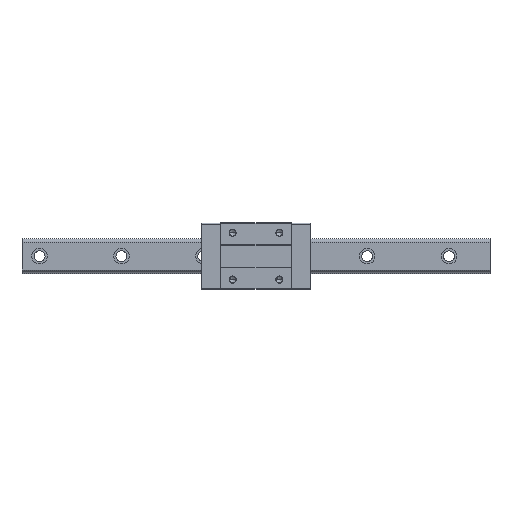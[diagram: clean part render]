
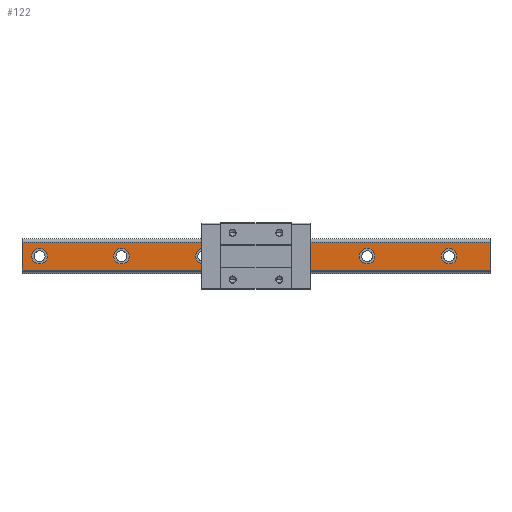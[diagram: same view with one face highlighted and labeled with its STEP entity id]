
A CAD part, top view. The second image highlights one B-rep face of the part: STEP entity #122.
In plain terms, the highlighted planar face has unit normal (0, 0, 1).
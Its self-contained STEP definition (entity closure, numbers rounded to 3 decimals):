
#13 = CIRCLE ( 'NONE', #3340, 10. ) ;
#90 = EDGE_CURVE ( 'NONE', #5143, #1685, #3420, .T. ) ;
#122 = ADVANCED_FACE ( 'NONE', ( #4680, #807, #3845, #5592, #4733, #864, #4303 ), #2019, .F. ) ;
#139 = CARTESIAN_POINT ( 'NONE',  ( 132.5, 0., 32. ) ) ;
#208 = CARTESIAN_POINT ( 'NONE',  ( -300., 17.696, 32. ) ) ;
#210 = EDGE_CURVE ( 'NONE', #4102, #4504, #13, .T. ) ;
#269 = CARTESIAN_POINT ( 'NONE',  ( 300., 17.696, 32. ) ) ;
#286 = ORIENTED_EDGE ( 'NONE', *, *, #5181, .F. ) ;
#309 = CIRCLE ( 'NONE', #866, 10. ) ;
#329 = DIRECTION ( 'NONE',  ( 1., 0., 0. ) ) ;
#341 = VERTEX_POINT ( 'NONE', #3609 ) ;
#364 = VERTEX_POINT ( 'NONE', #2353 ) ;
#417 = ORIENTED_EDGE ( 'NONE', *, *, #4057, .F. ) ;
#494 = ORIENTED_EDGE ( 'NONE', *, *, #4178, .F. ) ;
#545 = DIRECTION ( 'NONE',  ( 1., 0., 0. ) ) ;
#546 = EDGE_CURVE ( 'NONE', #1685, #2469, #2183, .T. ) ;
#549 = DIRECTION ( 'NONE',  ( 0., 0., 1. ) ) ;
#575 = CARTESIAN_POINT ( 'NONE',  ( 300., -17.696, 32. ) ) ;
#627 = DIRECTION ( 'NONE',  ( 0., 0., 1. ) ) ;
#633 = VERTEX_POINT ( 'NONE', #139 ) ;
#650 = CARTESIAN_POINT ( 'NONE',  ( -287.5, 0., 32. ) ) ;
#684 = AXIS2_PLACEMENT_3D ( 'NONE', #978, #4423, #545 ) ;
#696 = CARTESIAN_POINT ( 'NONE',  ( -267.5, 0., 32. ) ) ;
#804 = EDGE_LOOP ( 'NONE', ( #2076, #4796 ) ) ;
#807 = FACE_BOUND ( 'NONE', #3362, .T. ) ;
#840 = EDGE_CURVE ( 'NONE', #341, #3920, #4633, .T. ) ;
#864 = FACE_BOUND ( 'NONE', #5172, .T. ) ;
#866 = AXIS2_PLACEMENT_3D ( 'NONE', #1101, #2824, #3262 ) ;
#889 = DIRECTION ( 'NONE',  ( -1., 0., 0. ) ) ;
#945 = CARTESIAN_POINT ( 'NONE',  ( 300., 17.696, 32. ) ) ;
#958 = DIRECTION ( 'NONE',  ( 0., 0., 1. ) ) ;
#975 = CARTESIAN_POINT ( 'NONE',  ( 300., -17.696, 32. ) ) ;
#978 = CARTESIAN_POINT ( 'NONE',  ( 247.5, 0., 32. ) ) ;
#987 = CIRCLE ( 'NONE', #4229, 10. ) ;
#1030 = ORIENTED_EDGE ( 'NONE', *, *, #1365, .F. ) ;
#1056 = DIRECTION ( 'NONE',  ( 1., 0., 0. ) ) ;
#1075 = CARTESIAN_POINT ( 'NONE',  ( -162.5, 0., 32. ) ) ;
#1101 = CARTESIAN_POINT ( 'NONE',  ( -67.5, 0., 32. ) ) ;
#1114 = LINE ( 'NONE', #2867, #3214 ) ;
#1179 = CARTESIAN_POINT ( 'NONE',  ( 247.5, 0., 32. ) ) ;
#1193 = VECTOR ( 'NONE', #2982, 1000. ) ;
#1233 = CARTESIAN_POINT ( 'NONE',  ( -300., -17.696, 32. ) ) ;
#1234 = DIRECTION ( 'NONE',  ( 1., 0., 0. ) ) ;
#1268 = EDGE_CURVE ( 'NONE', #5505, #4204, #4999, .T. ) ;
#1330 = CARTESIAN_POINT ( 'NONE',  ( 237.5, 0., 32. ) ) ;
#1365 = EDGE_CURVE ( 'NONE', #3257, #364, #2141, .T. ) ;
#1440 = EDGE_CURVE ( 'NONE', #4839, #2469, #1114, .T. ) ;
#1575 = AXIS2_PLACEMENT_3D ( 'NONE', #3881, #958, #5601 ) ;
#1592 = CARTESIAN_POINT ( 'NONE',  ( 300., -17.696, 32. ) ) ;
#1603 = CARTESIAN_POINT ( 'NONE',  ( 152.5, 0., 32. ) ) ;
#1648 = VECTOR ( 'NONE', #889, 1000. ) ;
#1668 = CARTESIAN_POINT ( 'NONE',  ( -57.5, 0., 32. ) ) ;
#1674 = CIRCLE ( 'NONE', #1575, 10. ) ;
#1685 = VERTEX_POINT ( 'NONE', #575 ) ;
#1705 = ORIENTED_EDGE ( 'NONE', *, *, #210, .F. ) ;
#2019 = PLANE ( 'NONE',  #4902 ) ;
#2068 = ORIENTED_EDGE ( 'NONE', *, *, #546, .F. ) ;
#2076 = ORIENTED_EDGE ( 'NONE', *, *, #3276, .F. ) ;
#2079 = EDGE_LOOP ( 'NONE', ( #494, #1705 ) ) ;
#2125 = ORIENTED_EDGE ( 'NONE', *, *, #1440, .T. ) ;
#2141 = CIRCLE ( 'NONE', #4401, 10. ) ;
#2183 = LINE ( 'NONE', #975, #1648 ) ;
#2250 = CIRCLE ( 'NONE', #3953, 10. ) ;
#2254 = DIRECTION ( 'NONE',  ( 0., 0., -1. ) ) ;
#2299 = ORIENTED_EDGE ( 'NONE', *, *, #4426, .F. ) ;
#2324 = CARTESIAN_POINT ( 'NONE',  ( -172.5, 0., 32. ) ) ;
#2353 = CARTESIAN_POINT ( 'NONE',  ( -77.5, 0., 32. ) ) ;
#2419 = ORIENTED_EDGE ( 'NONE', *, *, #4521, .F. ) ;
#2462 = EDGE_CURVE ( 'NONE', #5143, #4839, #4603, .T. ) ;
#2469 = VERTEX_POINT ( 'NONE', #1233 ) ;
#2482 = CARTESIAN_POINT ( 'NONE',  ( 257.5, 0., 32. ) ) ;
#2484 = CARTESIAN_POINT ( 'NONE',  ( -182.5, 0., 32. ) ) ;
#2524 = VERTEX_POINT ( 'NONE', #1603 ) ;
#2599 = EDGE_CURVE ( 'NONE', #5361, #4487, #1674, .T. ) ;
#2615 = DIRECTION ( 'NONE',  ( 1., 0., 0. ) ) ;
#2628 = ORIENTED_EDGE ( 'NONE', *, *, #2599, .F. ) ;
#2633 = ORIENTED_EDGE ( 'NONE', *, *, #1268, .F. ) ;
#2652 = EDGE_LOOP ( 'NONE', ( #417, #2419 ) ) ;
#2824 = DIRECTION ( 'NONE',  ( 0., 0., 1. ) ) ;
#2860 = ORIENTED_EDGE ( 'NONE', *, *, #90, .F. ) ;
#2867 = CARTESIAN_POINT ( 'NONE',  ( -300., -17.696, 32. ) ) ;
#2915 = CARTESIAN_POINT ( 'NONE',  ( -277.5, 0., 32. ) ) ;
#2943 = CARTESIAN_POINT ( 'NONE',  ( 37.5, 0., 32. ) ) ;
#2982 = DIRECTION ( 'NONE',  ( 0., -1., 0. ) ) ;
#3024 = ORIENTED_EDGE ( 'NONE', *, *, #3984, .F. ) ;
#3036 = CARTESIAN_POINT ( 'NONE',  ( -277.5, 0., 32. ) ) ;
#3114 = EDGE_LOOP ( 'NONE', ( #2125, #2068, #2860, #4970 ) ) ;
#3117 = DIRECTION ( 'NONE',  ( 1., 0., 0. ) ) ;
#3125 = CIRCLE ( 'NONE', #684, 10. ) ;
#3141 = AXIS2_PLACEMENT_3D ( 'NONE', #2915, #5124, #3746 ) ;
#3214 = VECTOR ( 'NONE', #4480, 1000. ) ;
#3257 = VERTEX_POINT ( 'NONE', #1668 ) ;
#3262 = DIRECTION ( 'NONE',  ( 1., 0., 0. ) ) ;
#3276 = EDGE_CURVE ( 'NONE', #3920, #341, #3315, .T. ) ;
#3284 = AXIS2_PLACEMENT_3D ( 'NONE', #3367, #4688, #1234 ) ;
#3285 = DIRECTION ( 'NONE',  ( 1., 0., 0. ) ) ;
#3315 = CIRCLE ( 'NONE', #4044, 10. ) ;
#3340 = AXIS2_PLACEMENT_3D ( 'NONE', #3036, #4765, #2615 ) ;
#3362 = EDGE_LOOP ( 'NONE', ( #3024, #2628 ) ) ;
#3367 = CARTESIAN_POINT ( 'NONE',  ( 142.5, 0., 32. ) ) ;
#3375 = DIRECTION ( 'NONE',  ( 1., 0., 0. ) ) ;
#3420 = LINE ( 'NONE', #3811, #1193 ) ;
#3452 = EDGE_LOOP ( 'NONE', ( #1030, #2299 ) ) ;
#3609 = CARTESIAN_POINT ( 'NONE',  ( 27.5, 0., 32. ) ) ;
#3691 = DIRECTION ( 'NONE',  ( 0., 0., 1. ) ) ;
#3746 = DIRECTION ( 'NONE',  ( 1., 0., 0. ) ) ;
#3789 = DIRECTION ( 'NONE',  ( -1., 0., 0. ) ) ;
#3797 = CARTESIAN_POINT ( 'NONE',  ( 37.5, 0., 32. ) ) ;
#3811 = CARTESIAN_POINT ( 'NONE',  ( 300., -17.696, 32. ) ) ;
#3845 = FACE_BOUND ( 'NONE', #3452, .T. ) ;
#3881 = CARTESIAN_POINT ( 'NONE',  ( -172.5, 0., 32. ) ) ;
#3910 = VECTOR ( 'NONE', #3789, 1000. ) ;
#3920 = VERTEX_POINT ( 'NONE', #5264 ) ;
#3953 = AXIS2_PLACEMENT_3D ( 'NONE', #4527, #627, #1056 ) ;
#3984 = EDGE_CURVE ( 'NONE', #4487, #5361, #987, .T. ) ;
#4044 = AXIS2_PLACEMENT_3D ( 'NONE', #2943, #5125, #3375 ) ;
#4057 = EDGE_CURVE ( 'NONE', #2524, #633, #2250, .T. ) ;
#4102 = VERTEX_POINT ( 'NONE', #650 ) ;
#4178 = EDGE_CURVE ( 'NONE', #4504, #4102, #4425, .T. ) ;
#4199 = DIRECTION ( 'NONE',  ( 0., 0., 1. ) ) ;
#4204 = VERTEX_POINT ( 'NONE', #2482 ) ;
#4229 = AXIS2_PLACEMENT_3D ( 'NONE', #2324, #3691, #4585 ) ;
#4303 = FACE_OUTER_BOUND ( 'NONE', #3114, .T. ) ;
#4401 = AXIS2_PLACEMENT_3D ( 'NONE', #4428, #549, #3117 ) ;
#4423 = DIRECTION ( 'NONE',  ( 0., 0., 1. ) ) ;
#4425 = CIRCLE ( 'NONE', #3141, 10. ) ;
#4426 = EDGE_CURVE ( 'NONE', #364, #3257, #309, .T. ) ;
#4428 = CARTESIAN_POINT ( 'NONE',  ( -67.5, 0., 32. ) ) ;
#4480 = DIRECTION ( 'NONE',  ( 0., -1., 0. ) ) ;
#4487 = VERTEX_POINT ( 'NONE', #1075 ) ;
#4504 = VERTEX_POINT ( 'NONE', #696 ) ;
#4521 = EDGE_CURVE ( 'NONE', #633, #2524, #4567, .T. ) ;
#4527 = CARTESIAN_POINT ( 'NONE',  ( 142.5, 0., 32. ) ) ;
#4567 = CIRCLE ( 'NONE', #3284, 10. ) ;
#4585 = DIRECTION ( 'NONE',  ( 1., 0., 0. ) ) ;
#4602 = DIRECTION ( 'NONE',  ( 0., 0., 1. ) ) ;
#4603 = LINE ( 'NONE', #269, #3910 ) ;
#4633 = CIRCLE ( 'NONE', #4818, 10. ) ;
#4680 = FACE_BOUND ( 'NONE', #2079, .T. ) ;
#4688 = DIRECTION ( 'NONE',  ( 0., 0., 1. ) ) ;
#4733 = FACE_BOUND ( 'NONE', #2652, .T. ) ;
#4765 = DIRECTION ( 'NONE',  ( 0., 0., 1. ) ) ;
#4793 = DIRECTION ( 'NONE',  ( -1., 0., 0. ) ) ;
#4796 = ORIENTED_EDGE ( 'NONE', *, *, #840, .F. ) ;
#4818 = AXIS2_PLACEMENT_3D ( 'NONE', #3797, #4199, #329 ) ;
#4839 = VERTEX_POINT ( 'NONE', #208 ) ;
#4902 = AXIS2_PLACEMENT_3D ( 'NONE', #1592, #2254, #4793 ) ;
#4905 = AXIS2_PLACEMENT_3D ( 'NONE', #1179, #4602, #3285 ) ;
#4970 = ORIENTED_EDGE ( 'NONE', *, *, #2462, .T. ) ;
#4999 = CIRCLE ( 'NONE', #4905, 10. ) ;
#5124 = DIRECTION ( 'NONE',  ( 0., 0., 1. ) ) ;
#5125 = DIRECTION ( 'NONE',  ( 0., 0., 1. ) ) ;
#5143 = VERTEX_POINT ( 'NONE', #945 ) ;
#5172 = EDGE_LOOP ( 'NONE', ( #286, #2633 ) ) ;
#5181 = EDGE_CURVE ( 'NONE', #4204, #5505, #3125, .T. ) ;
#5264 = CARTESIAN_POINT ( 'NONE',  ( 47.5, 0., 32. ) ) ;
#5361 = VERTEX_POINT ( 'NONE', #2484 ) ;
#5505 = VERTEX_POINT ( 'NONE', #1330 ) ;
#5592 = FACE_BOUND ( 'NONE', #804, .T. ) ;
#5601 = DIRECTION ( 'NONE',  ( 1., 0., 0. ) ) ;
